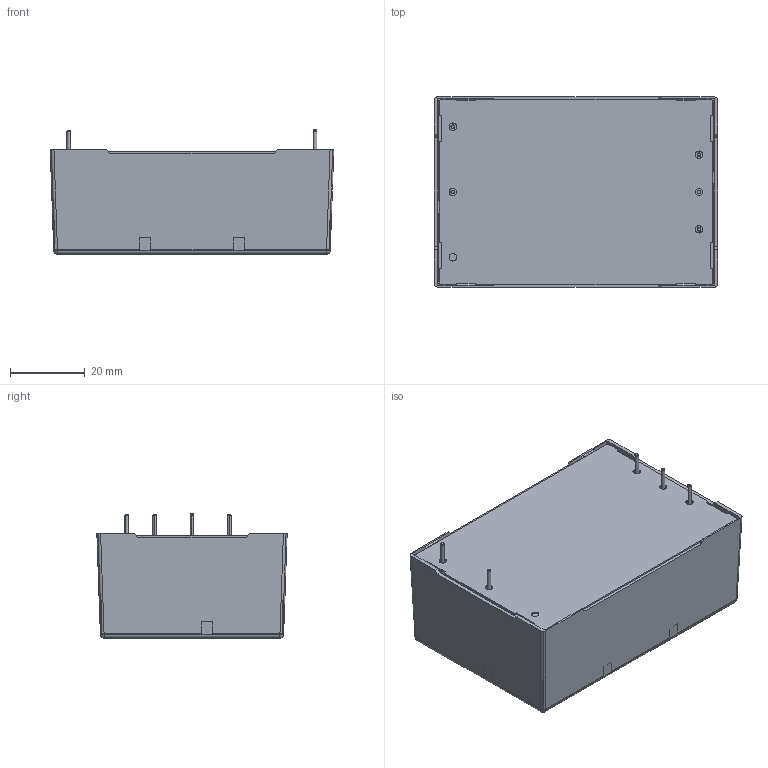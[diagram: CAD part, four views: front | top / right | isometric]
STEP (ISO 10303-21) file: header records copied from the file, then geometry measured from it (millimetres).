
FILE_DESCRIPTION((''),'2;1');
FILE_NAME('C:\Users\yaginuma\Documents\TRACO　STEPデータ送付関係\TMT302xx(ピン_Dual）\TMT302xx(pin_Dual) Ass_stp\TMT302xx(pin_Dual) Ass.stp','2012-07-04T13:19:15',('yaginuma'),(''),'Autodesk Inventor 9','Autodesk Inventor 9','');
FILE_SCHEMA(('AUTOMOTIVE_DESIGN { 1 0 10303 214 1 1 1 1 }'));
Length unit declared in the file: millimetre
Products named in the file (4): TMT302xx(pin_Dual) Ass; 上ケース; 下ケース絶縁板; ピン
Assembly tree (7 placements, depth 2):
  TMT302xx(pin_Dual) Ass
    上ケース
    下ケース絶縁板
    ピン  x5
Bounding box: 76 x 51 x 33.3 mm (x, y, z)
Volume: 8458.8 mm3; surface area: 28494.5 mm2
Topology: 7 solids, 7 shells, 308 faces, 789 edges, 490 vertices
Faces by surface type: plane 143, cylinder 137, cone 20, bspline 4, sphere 4
Entity records: 8696 total; most frequent: CARTESIAN_POINT 1574, DIRECTION 1505, ORIENTED_EDGE 1450, EDGE_CURVE 725, VECTOR 511, LINE 511, AXIS2_PLACEMENT_3D 497, VERTEX_POINT 458
